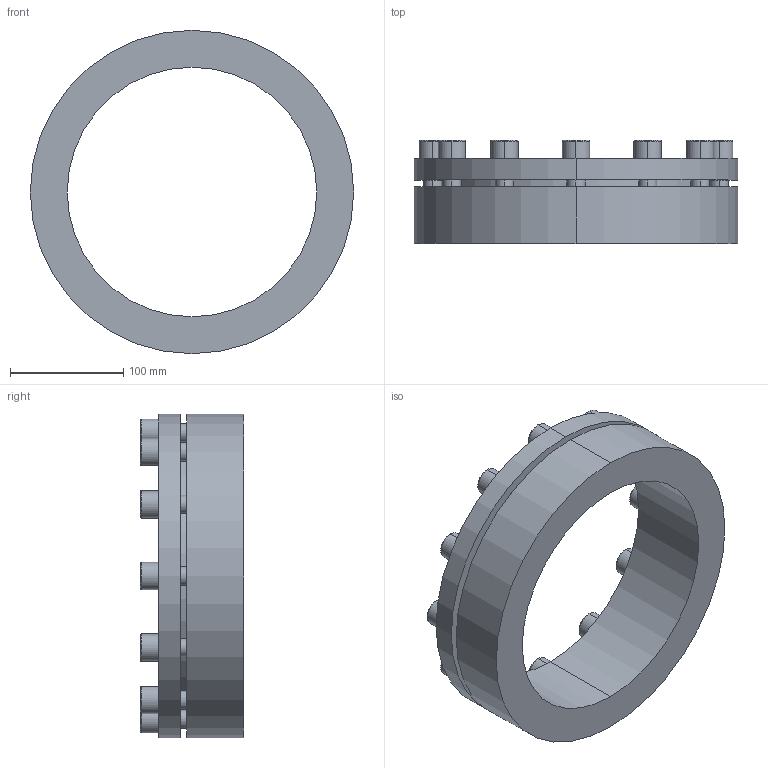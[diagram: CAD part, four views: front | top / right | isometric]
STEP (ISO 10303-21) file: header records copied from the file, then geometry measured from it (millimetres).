
FILE_DESCRIPTION (( 'STEP AP203' ), '1' );
FILE_NAME ('PL-H3 220-285.STEP', '2021-10-23T01:11:47', ( '' ), ( '' ), 'SwSTEP 2.0', 'SolidWorks 2018', '' );
FILE_SCHEMA (( 'CONFIG_CONTROL_DESIGN' ));
Length unit declared in the file: millimetre
Products named in the file (1): PL-H3 220-285
Bounding box: 285 x 91 x 285 mm (x, y, z)
Volume: 1891468.7 mm3; surface area: 229412.2 mm2
Topology: 1 solids, 1 shells, 180 faces, 432 edges, 280 vertices
Faces by surface type: plane 100, cylinder 56, torus 24
Entity records: 5373 total; most frequent: DIRECTION 954, CARTESIAN_POINT 893, ORIENTED_EDGE 864, EDGE_CURVE 432, AXIS2_PLACEMENT_3D 341, VERTEX_POINT 280, VECTOR 272, LINE 272
